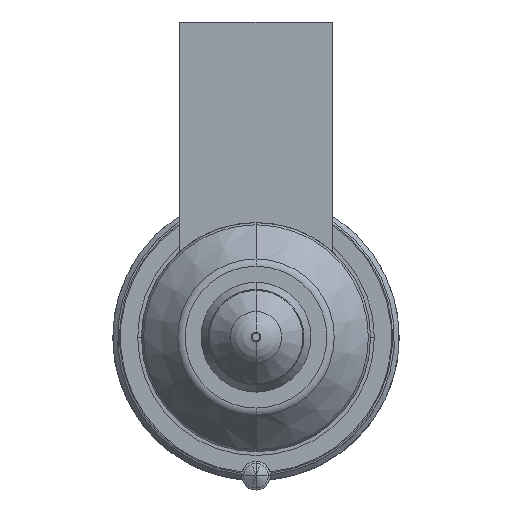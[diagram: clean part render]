
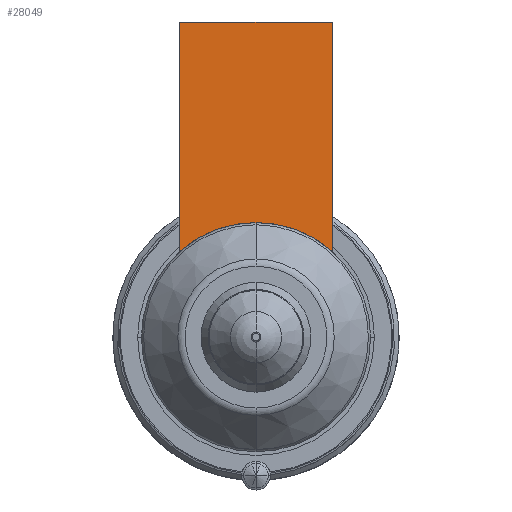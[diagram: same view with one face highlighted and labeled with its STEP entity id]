
A CAD part, front view. The second image highlights one B-rep face of the part: STEP entity #28049.
In plain terms, the highlighted planar face has unit normal (0, -1, 0).
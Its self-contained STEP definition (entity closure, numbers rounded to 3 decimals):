
#27139=DIRECTION('',(0.,0.,-1.));
#27140=VECTOR('',#27139,24.056);
#27141=CARTESIAN_POINT('',(-8.,-56.,33.));
#27142=LINE('',#27141,#27140);
#27179=DIRECTION('',(1.,0.,0.));
#27180=VECTOR('',#27179,16.);
#27181=CARTESIAN_POINT('',(-8.,-56.,33.));
#27182=LINE('',#27181,#27180);
#27186=CARTESIAN_POINT('',(0.,-56.,0.));
#27187=DIRECTION('',(0.,-1.,0.));
#27188=DIRECTION('',(0.667,0.,0.745));
#27189=AXIS2_PLACEMENT_3D('',#27186,#27187,#27188);
#27194=CARTESIAN_POINT('',(0.,-56.,0.));
#27195=DIRECTION('',(0.,-1.,0.));
#27196=DIRECTION('',(0.,0.,1.));
#27197=AXIS2_PLACEMENT_3D('',#27194,#27195,#27196);
#27230=DIRECTION('',(0.,0.,-1.));
#27231=VECTOR('',#27230,24.056);
#27232=CARTESIAN_POINT('',(8.,-56.,33.));
#27233=LINE('',#27232,#27231);
#27885=CARTESIAN_POINT('',(-8.,-56.,33.));
#27886=VERTEX_POINT('',#27885);
#27891=CARTESIAN_POINT('',(8.,-56.,33.));
#27892=VERTEX_POINT('',#27891);
#27895=CARTESIAN_POINT('',(-8.,-56.,8.944));
#27896=VERTEX_POINT('',#27895);
#27899=CARTESIAN_POINT('',(8.,-56.,8.944));
#27900=VERTEX_POINT('',#27899);
#27968=CARTESIAN_POINT('',(0.,-56.,12.));
#27969=VERTEX_POINT('',#27968);
#28034=CARTESIAN_POINT('',(-8.,-56.,33.));
#28035=DIRECTION('',(0.,-1.,0.));
#28036=DIRECTION('',(0.,0.,-1.));
#28037=AXIS2_PLACEMENT_3D('',#28034,#28035,#28036);
#28038=PLANE('',#28037);
#28039=ORIENTED_EDGE('',*,*,#27982,.F.);
#28041=ORIENTED_EDGE('',*,*,#28040,.T.);
#28043=ORIENTED_EDGE('',*,*,#28042,.T.);
#28045=ORIENTED_EDGE('',*,*,#28044,.T.);
#28046=ORIENTED_EDGE('',*,*,#28014,.T.);
#28047=EDGE_LOOP('',(#28039,#28041,#28043,#28045,#28046));
#28048=FACE_OUTER_BOUND('',#28047,.F.);
#28049=ADVANCED_FACE('',(#28048),#28038,.T.);
#27190=CIRCLE('',#27189,12.);
#27198=CIRCLE('',#27197,12.);
#27982=EDGE_CURVE('',#27886,#27896,#27142,.T.);
#28014=EDGE_CURVE('',#27969,#27896,#27198,.T.);
#28040=EDGE_CURVE('',#27886,#27892,#27182,.T.);
#28042=EDGE_CURVE('',#27892,#27900,#27233,.T.);
#28044=EDGE_CURVE('',#27900,#27969,#27190,.T.);
